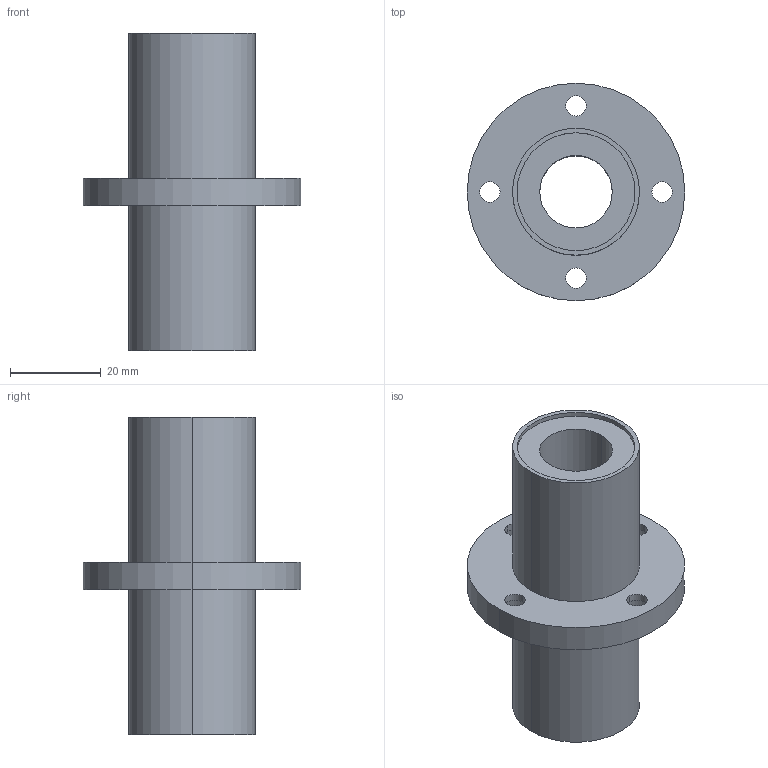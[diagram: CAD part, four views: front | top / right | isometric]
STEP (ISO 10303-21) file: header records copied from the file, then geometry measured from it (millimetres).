
FILE_DESCRIPTION((''),'2;1');
FILE_NAME('C:\Documents and Settings\ｿﾀﾀ蠑ｷ1\ｹﾙﾅﾁ ﾈｭｸ饅\ｺﾎﾇｰﾆﾄﾀﾏ\ﾁｦﾇｰ\LMFM__\LMFM16UU.stp','2005-06-15T13:23:43',('ｿﾀﾀ蠑ｷ1'),(''),'Autodesk Inventor 9','Autodesk Inventor 9','');
FILE_SCHEMA(('AUTOMOTIVE_DESIGN { 1 0 10303 214 1 1 1 1 }'));
Length unit declared in the file: millimetre
Products named in the file (1): LMFM__
Bounding box: 48 x 48 x 70 mm (x, y, z)
Volume: 34545 mm3; surface area: 13738.5 mm2
Topology: 1 solids, 1 shells, 38 faces, 84 edges, 56 vertices
Faces by surface type: cylinder 28, plane 10
Entity records: 1127 total; most frequent: DIRECTION 218, CARTESIAN_POINT 179, ORIENTED_EDGE 168, AXIS2_PLACEMENT_3D 95, EDGE_CURVE 84, VERTEX_POINT 56, CIRCLE 56, EDGE_LOOP 56
